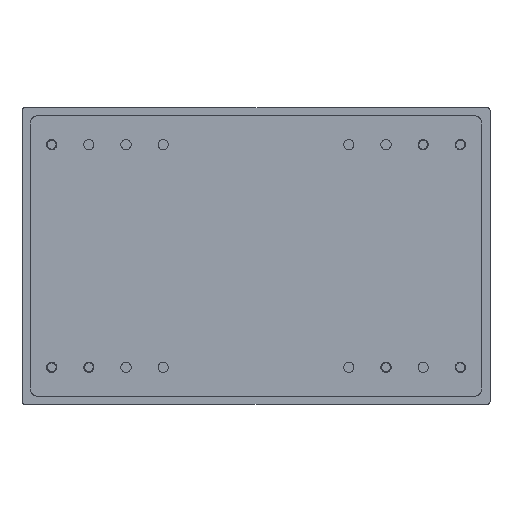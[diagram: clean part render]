
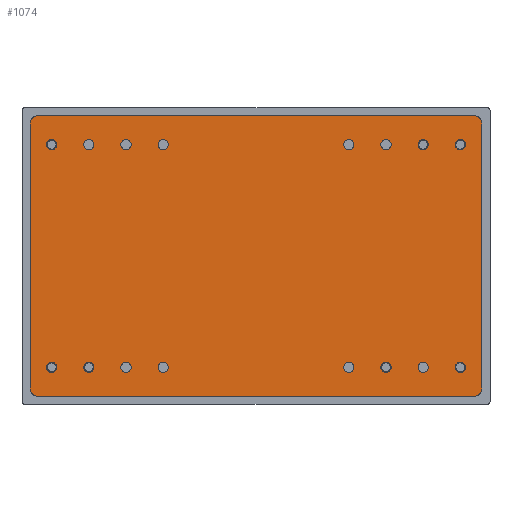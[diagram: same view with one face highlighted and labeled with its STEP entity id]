
A CAD part, front view. The second image highlights one B-rep face of the part: STEP entity #1074.
In plain terms, the highlighted planar face has unit normal (0, -1, 0).
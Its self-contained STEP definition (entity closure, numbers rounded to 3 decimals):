
#19=LINE('',#1784,#75);
#20=LINE('',#1788,#76);
#21=LINE('',#1792,#77);
#22=LINE('',#1796,#78);
#75=VECTOR('',#1420,18.);
#76=VECTOR('',#1423,29.7);
#77=VECTOR('',#1426,18.);
#78=VECTOR('',#1429,29.7);
#133=PLANE('',#1197);
#191=FACE_BOUND('',#344,.T.);
#192=FACE_BOUND('',#345,.T.);
#193=FACE_BOUND('',#346,.T.);
#194=FACE_BOUND('',#347,.T.);
#195=FACE_BOUND('',#348,.T.);
#196=FACE_BOUND('',#349,.T.);
#197=FACE_BOUND('',#350,.T.);
#198=FACE_BOUND('',#351,.T.);
#199=FACE_BOUND('',#352,.T.);
#200=FACE_BOUND('',#353,.T.);
#201=FACE_BOUND('',#354,.T.);
#202=FACE_BOUND('',#355,.T.);
#203=FACE_BOUND('',#356,.T.);
#204=FACE_BOUND('',#357,.T.);
#205=FACE_BOUND('',#358,.T.);
#206=FACE_BOUND('',#359,.T.);
#240=FACE_OUTER_BOUND('',#343,.T.);
#343=EDGE_LOOP('',(#785,#786,#787,#788,#789,#790,#791,#792));
#344=EDGE_LOOP('',(#793));
#345=EDGE_LOOP('',(#794));
#346=EDGE_LOOP('',(#795));
#347=EDGE_LOOP('',(#796));
#348=EDGE_LOOP('',(#797));
#349=EDGE_LOOP('',(#798));
#350=EDGE_LOOP('',(#799));
#351=EDGE_LOOP('',(#800));
#352=EDGE_LOOP('',(#801));
#353=EDGE_LOOP('',(#802));
#354=EDGE_LOOP('',(#803));
#355=EDGE_LOOP('',(#804));
#356=EDGE_LOOP('',(#805));
#357=EDGE_LOOP('',(#806));
#358=EDGE_LOOP('',(#807));
#359=EDGE_LOOP('',(#808));
#442=CIRCLE('',#1151,0.35);
#444=CIRCLE('',#1154,0.35);
#446=CIRCLE('',#1157,0.35);
#448=CIRCLE('',#1160,0.35);
#450=CIRCLE('',#1163,0.35);
#452=CIRCLE('',#1166,0.35);
#454=CIRCLE('',#1169,0.35);
#456=CIRCLE('',#1172,0.35);
#458=CIRCLE('',#1175,0.35);
#460=CIRCLE('',#1178,0.35);
#462=CIRCLE('',#1181,0.35);
#464=CIRCLE('',#1184,0.35);
#466=CIRCLE('',#1187,0.35);
#468=CIRCLE('',#1190,0.35);
#470=CIRCLE('',#1193,0.35);
#472=CIRCLE('',#1196,0.35);
#473=CIRCLE('',#1198,0.6);
#474=CIRCLE('',#1199,0.6);
#475=CIRCLE('',#1200,0.6);
#476=CIRCLE('',#1201,0.6);
#520=VERTEX_POINT('',#1704);
#522=VERTEX_POINT('',#1709);
#524=VERTEX_POINT('',#1714);
#526=VERTEX_POINT('',#1719);
#528=VERTEX_POINT('',#1724);
#530=VERTEX_POINT('',#1729);
#532=VERTEX_POINT('',#1734);
#534=VERTEX_POINT('',#1739);
#536=VERTEX_POINT('',#1744);
#538=VERTEX_POINT('',#1749);
#540=VERTEX_POINT('',#1754);
#542=VERTEX_POINT('',#1759);
#544=VERTEX_POINT('',#1764);
#546=VERTEX_POINT('',#1769);
#548=VERTEX_POINT('',#1774);
#550=VERTEX_POINT('',#1779);
#551=VERTEX_POINT('',#1782);
#552=VERTEX_POINT('',#1783);
#553=VERTEX_POINT('',#1785);
#554=VERTEX_POINT('',#1787);
#555=VERTEX_POINT('',#1789);
#556=VERTEX_POINT('',#1791);
#557=VERTEX_POINT('',#1793);
#558=VERTEX_POINT('',#1795);
#618=EDGE_CURVE('',#520,#520,#442,.T.);
#620=EDGE_CURVE('',#522,#522,#444,.T.);
#622=EDGE_CURVE('',#524,#524,#446,.T.);
#624=EDGE_CURVE('',#526,#526,#448,.T.);
#626=EDGE_CURVE('',#528,#528,#450,.T.);
#628=EDGE_CURVE('',#530,#530,#452,.T.);
#630=EDGE_CURVE('',#532,#532,#454,.T.);
#632=EDGE_CURVE('',#534,#534,#456,.T.);
#634=EDGE_CURVE('',#536,#536,#458,.T.);
#636=EDGE_CURVE('',#538,#538,#460,.T.);
#638=EDGE_CURVE('',#540,#540,#462,.T.);
#640=EDGE_CURVE('',#542,#542,#464,.T.);
#642=EDGE_CURVE('',#544,#544,#466,.T.);
#644=EDGE_CURVE('',#546,#546,#468,.T.);
#646=EDGE_CURVE('',#548,#548,#470,.T.);
#648=EDGE_CURVE('',#550,#550,#472,.T.);
#649=EDGE_CURVE('',#551,#552,#19,.T.);
#650=EDGE_CURVE('',#552,#553,#473,.T.);
#651=EDGE_CURVE('',#553,#554,#20,.T.);
#652=EDGE_CURVE('',#554,#555,#474,.T.);
#653=EDGE_CURVE('',#555,#556,#21,.T.);
#654=EDGE_CURVE('',#556,#557,#475,.T.);
#655=EDGE_CURVE('',#557,#558,#22,.T.);
#656=EDGE_CURVE('',#558,#551,#476,.T.);
#785=ORIENTED_EDGE('',*,*,#649,.T.);
#786=ORIENTED_EDGE('',*,*,#650,.T.);
#787=ORIENTED_EDGE('',*,*,#651,.T.);
#788=ORIENTED_EDGE('',*,*,#652,.T.);
#789=ORIENTED_EDGE('',*,*,#653,.T.);
#790=ORIENTED_EDGE('',*,*,#654,.T.);
#791=ORIENTED_EDGE('',*,*,#655,.T.);
#792=ORIENTED_EDGE('',*,*,#656,.T.);
#793=ORIENTED_EDGE('',*,*,#618,.F.);
#794=ORIENTED_EDGE('',*,*,#620,.F.);
#795=ORIENTED_EDGE('',*,*,#622,.F.);
#796=ORIENTED_EDGE('',*,*,#624,.F.);
#797=ORIENTED_EDGE('',*,*,#626,.F.);
#798=ORIENTED_EDGE('',*,*,#628,.F.);
#799=ORIENTED_EDGE('',*,*,#630,.F.);
#800=ORIENTED_EDGE('',*,*,#632,.F.);
#801=ORIENTED_EDGE('',*,*,#634,.F.);
#802=ORIENTED_EDGE('',*,*,#636,.F.);
#803=ORIENTED_EDGE('',*,*,#638,.F.);
#804=ORIENTED_EDGE('',*,*,#640,.F.);
#805=ORIENTED_EDGE('',*,*,#642,.F.);
#806=ORIENTED_EDGE('',*,*,#644,.F.);
#807=ORIENTED_EDGE('',*,*,#646,.F.);
#808=ORIENTED_EDGE('',*,*,#648,.F.);
#1074=ADVANCED_FACE('',(#240,#191,#192,#193,#194,#195,#196,#197,#198,#199,
#200,#201,#202,#203,#204,#205,#206),#133,.F.);
#1151=AXIS2_PLACEMENT_3D('',#1705,#1326,#1327);
#1154=AXIS2_PLACEMENT_3D('',#1710,#1332,#1333);
#1157=AXIS2_PLACEMENT_3D('',#1715,#1338,#1339);
#1160=AXIS2_PLACEMENT_3D('',#1720,#1344,#1345);
#1163=AXIS2_PLACEMENT_3D('',#1725,#1350,#1351);
#1166=AXIS2_PLACEMENT_3D('',#1730,#1356,#1357);
#1169=AXIS2_PLACEMENT_3D('',#1735,#1362,#1363);
#1172=AXIS2_PLACEMENT_3D('',#1740,#1368,#1369);
#1175=AXIS2_PLACEMENT_3D('',#1745,#1374,#1375);
#1178=AXIS2_PLACEMENT_3D('',#1750,#1380,#1381);
#1181=AXIS2_PLACEMENT_3D('',#1755,#1386,#1387);
#1184=AXIS2_PLACEMENT_3D('',#1760,#1392,#1393);
#1187=AXIS2_PLACEMENT_3D('',#1765,#1398,#1399);
#1190=AXIS2_PLACEMENT_3D('',#1770,#1404,#1405);
#1193=AXIS2_PLACEMENT_3D('',#1775,#1410,#1411);
#1196=AXIS2_PLACEMENT_3D('',#1780,#1416,#1417);
#1197=AXIS2_PLACEMENT_3D('',#1781,#1418,#1419);
#1198=AXIS2_PLACEMENT_3D('',#1786,#1421,#1422);
#1199=AXIS2_PLACEMENT_3D('',#1790,#1424,#1425);
#1200=AXIS2_PLACEMENT_3D('',#1794,#1427,#1428);
#1201=AXIS2_PLACEMENT_3D('',#1797,#1430,#1431);
#1326=DIRECTION('center_axis',(0.,-1.,0.));
#1327=DIRECTION('ref_axis',(1.,0.,0.));
#1332=DIRECTION('center_axis',(0.,-1.,0.));
#1333=DIRECTION('ref_axis',(1.,0.,0.));
#1338=DIRECTION('center_axis',(0.,-1.,0.));
#1339=DIRECTION('ref_axis',(1.,0.,0.));
#1344=DIRECTION('center_axis',(0.,-1.,0.));
#1345=DIRECTION('ref_axis',(1.,0.,0.));
#1350=DIRECTION('center_axis',(0.,-1.,0.));
#1351=DIRECTION('ref_axis',(1.,0.,0.));
#1356=DIRECTION('center_axis',(0.,-1.,0.));
#1357=DIRECTION('ref_axis',(1.,0.,0.));
#1362=DIRECTION('center_axis',(0.,-1.,0.));
#1363=DIRECTION('ref_axis',(1.,0.,0.));
#1368=DIRECTION('center_axis',(0.,-1.,0.));
#1369=DIRECTION('ref_axis',(1.,0.,0.));
#1374=DIRECTION('center_axis',(0.,-1.,0.));
#1375=DIRECTION('ref_axis',(1.,0.,0.));
#1380=DIRECTION('center_axis',(0.,-1.,0.));
#1381=DIRECTION('ref_axis',(1.,0.,0.));
#1386=DIRECTION('center_axis',(0.,-1.,0.));
#1387=DIRECTION('ref_axis',(1.,0.,0.));
#1392=DIRECTION('center_axis',(0.,-1.,0.));
#1393=DIRECTION('ref_axis',(1.,0.,0.));
#1398=DIRECTION('center_axis',(0.,-1.,0.));
#1399=DIRECTION('ref_axis',(1.,0.,0.));
#1404=DIRECTION('center_axis',(0.,-1.,0.));
#1405=DIRECTION('ref_axis',(1.,0.,0.));
#1410=DIRECTION('center_axis',(0.,-1.,0.));
#1411=DIRECTION('ref_axis',(1.,0.,0.));
#1416=DIRECTION('center_axis',(0.,-1.,0.));
#1417=DIRECTION('ref_axis',(1.,0.,0.));
#1418=DIRECTION('center_axis',(0.,1.,0.));
#1419=DIRECTION('ref_axis',(-1.,0.,0.));
#1420=DIRECTION('',(0.,0.,-1.));
#1421=DIRECTION('center_axis',(0.,-1.,0.));
#1422=DIRECTION('ref_axis',(-1.,0.,0.));
#1423=DIRECTION('',(1.,0.,0.));
#1424=DIRECTION('center_axis',(0.,-1.,0.));
#1425=DIRECTION('ref_axis',(-1.,0.,0.));
#1426=DIRECTION('',(0.,0.,1.));
#1427=DIRECTION('center_axis',(0.,-1.,0.));
#1428=DIRECTION('ref_axis',(-1.,0.,0.));
#1429=DIRECTION('',(-1.,0.,0.));
#1430=DIRECTION('center_axis',(0.,-1.,0.));
#1431=DIRECTION('ref_axis',(-1.,0.,0.));
#1704=CARTESIAN_POINT('',(-6.,-8.1,-7.61));
#1705=CARTESIAN_POINT('Origin',(-6.35,-8.1,-7.61));
#1709=CARTESIAN_POINT('',(-6.,-8.1,7.61));
#1710=CARTESIAN_POINT('Origin',(-6.35,-8.1,7.61));
#1714=CARTESIAN_POINT('',(6.7,-8.1,-7.61));
#1715=CARTESIAN_POINT('Origin',(6.35,-8.1,-7.61));
#1719=CARTESIAN_POINT('',(6.7,-8.1,7.61));
#1720=CARTESIAN_POINT('Origin',(6.35,-8.1,7.61));
#1724=CARTESIAN_POINT('',(-8.54,-8.1,-7.61));
#1725=CARTESIAN_POINT('Origin',(-8.89,-8.1,-7.61));
#1729=CARTESIAN_POINT('',(9.24,-8.1,-7.61));
#1730=CARTESIAN_POINT('Origin',(8.89,-8.1,-7.61));
#1734=CARTESIAN_POINT('',(9.24,-8.1,7.61));
#1735=CARTESIAN_POINT('Origin',(8.89,-8.1,7.61));
#1739=CARTESIAN_POINT('',(-8.54,-8.1,7.61));
#1740=CARTESIAN_POINT('Origin',(-8.89,-8.1,7.61));
#1744=CARTESIAN_POINT('',(-11.08,-8.1,7.61));
#1745=CARTESIAN_POINT('Origin',(-11.43,-8.1,7.61));
#1749=CARTESIAN_POINT('',(11.78,-8.1,7.61));
#1750=CARTESIAN_POINT('Origin',(11.43,-8.1,7.61));
#1754=CARTESIAN_POINT('',(11.78,-8.1,-7.61));
#1755=CARTESIAN_POINT('Origin',(11.43,-8.1,-7.61));
#1759=CARTESIAN_POINT('',(-11.08,-8.1,-7.61));
#1760=CARTESIAN_POINT('Origin',(-11.43,-8.1,-7.61));
#1764=CARTESIAN_POINT('',(-13.62,-8.1,-7.61));
#1765=CARTESIAN_POINT('Origin',(-13.97,-8.1,-7.61));
#1769=CARTESIAN_POINT('',(14.32,-8.1,-7.61));
#1770=CARTESIAN_POINT('Origin',(13.97,-8.1,-7.61));
#1774=CARTESIAN_POINT('',(14.32,-8.1,7.61));
#1775=CARTESIAN_POINT('Origin',(13.97,-8.1,7.61));
#1779=CARTESIAN_POINT('',(-13.62,-8.1,7.61));
#1780=CARTESIAN_POINT('Origin',(-13.97,-8.1,7.61));
#1781=CARTESIAN_POINT('Origin',(15.45,-8.1,9.6));
#1782=CARTESIAN_POINT('',(-15.45,-8.1,9.));
#1783=CARTESIAN_POINT('',(-15.45,-8.1,-9.));
#1784=CARTESIAN_POINT('',(-15.45,-8.1,-9.6));
#1785=CARTESIAN_POINT('',(-14.85,-8.1,-9.6));
#1786=CARTESIAN_POINT('Origin',(-14.85,-8.1,-9.));
#1787=CARTESIAN_POINT('',(14.85,-8.1,-9.6));
#1788=CARTESIAN_POINT('',(-15.45,-8.1,-9.6));
#1789=CARTESIAN_POINT('',(15.45,-8.1,-9.));
#1790=CARTESIAN_POINT('Origin',(14.85,-8.1,-9.));
#1791=CARTESIAN_POINT('',(15.45,-8.1,9.));
#1792=CARTESIAN_POINT('',(15.45,-8.1,-9.6));
#1793=CARTESIAN_POINT('',(14.85,-8.1,9.6));
#1794=CARTESIAN_POINT('Origin',(14.85,-8.1,9.));
#1795=CARTESIAN_POINT('',(-14.85,-8.1,9.6));
#1796=CARTESIAN_POINT('',(-15.45,-8.1,9.6));
#1797=CARTESIAN_POINT('Origin',(-14.85,-8.1,9.));
